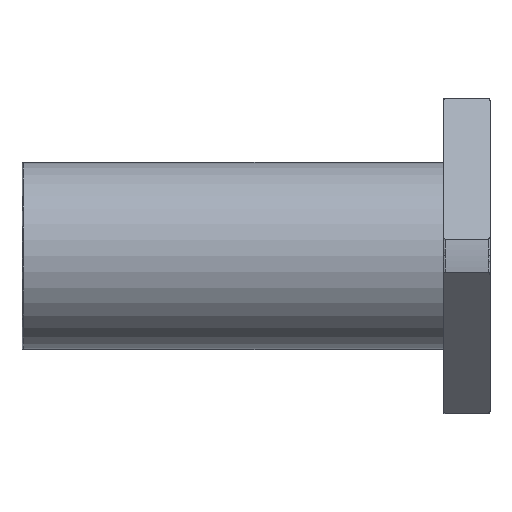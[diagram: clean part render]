
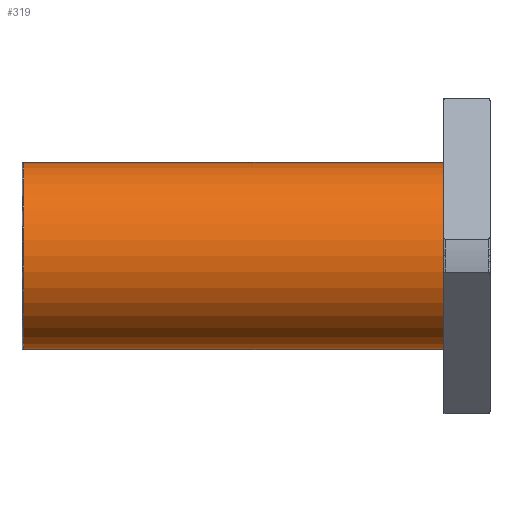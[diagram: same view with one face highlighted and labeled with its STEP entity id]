
A CAD part, top view. The second image highlights one B-rep face of the part: STEP entity #319.
In plain terms, the highlighted cylindrical face has radius 16 mm (diameter 32 mm), a partial arc.
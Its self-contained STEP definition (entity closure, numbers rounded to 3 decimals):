
#319 = ADVANCED_FACE('',(#320),#334,.T.);
#320 = FACE_BOUND('',#321,.T.);
#321 = EDGE_LOOP('',(#322,#357,#386,#415,#438));
#322 = ORIENTED_EDGE('',*,*,#323,.F.);
#323 = EDGE_CURVE('',#324,#326,#328,.T.);
#324 = VERTEX_POINT('',#325);
#325 = CARTESIAN_POINT('',(-79.7,16.,0.));
#326 = VERTEX_POINT('',#327);
#327 = CARTESIAN_POINT('',(-8.,16.,0.));
#328 = SURFACE_CURVE('',#329,(#333,#345),.PCURVE_S1.);
#329 = LINE('',#330,#331);
#330 = CARTESIAN_POINT('',(-43.85,16.,0.));
#331 = VECTOR('',#332,1.);
#332 = DIRECTION('',(1.,0.,0.));
#333 = PCURVE('',#334,#339);
#334 = CYLINDRICAL_SURFACE('',#335,16.);
#335 = AXIS2_PLACEMENT_3D('',#336,#337,#338);
#336 = CARTESIAN_POINT('',(-43.85,0.,0.));
#337 = DIRECTION('',(1.,0.,0.));
#338 = DIRECTION('',(-0.,1.,0.));
#339 = DEFINITIONAL_REPRESENTATION('',(#340),#344);
#340 = LINE('',#341,#342);
#341 = CARTESIAN_POINT('',(0.,0.));
#342 = VECTOR('',#343,1.);
#343 = DIRECTION('',(0.,1.));
#344 = ( GEOMETRIC_REPRESENTATION_CONTEXT(2) 
PARAMETRIC_REPRESENTATION_CONTEXT() REPRESENTATION_CONTEXT('2D SPACE',''
  ) );
#345 = PCURVE('',#346,#351);
#346 = CYLINDRICAL_SURFACE('',#347,16.);
#347 = AXIS2_PLACEMENT_3D('',#348,#349,#350);
#348 = CARTESIAN_POINT('',(-43.85,0.,0.));
#349 = DIRECTION('',(1.,0.,0.));
#350 = DIRECTION('',(-0.,1.,0.));
#351 = DEFINITIONAL_REPRESENTATION('',(#352),#356);
#352 = LINE('',#353,#354);
#353 = CARTESIAN_POINT('',(6.283,0.));
#354 = VECTOR('',#355,1.);
#355 = DIRECTION('',(0.,1.));
#356 = ( GEOMETRIC_REPRESENTATION_CONTEXT(2) 
PARAMETRIC_REPRESENTATION_CONTEXT() REPRESENTATION_CONTEXT('2D SPACE',''
  ) );
#357 = ORIENTED_EDGE('',*,*,#358,.T.);
#358 = EDGE_CURVE('',#324,#359,#361,.T.);
#359 = VERTEX_POINT('',#360);
#360 = CARTESIAN_POINT('',(-79.7,0.,16.));
#361 = SURFACE_CURVE('',#362,(#367,#374),.PCURVE_S1.);
#362 = CIRCLE('',#363,16.);
#363 = AXIS2_PLACEMENT_3D('',#364,#365,#366);
#364 = CARTESIAN_POINT('',(-79.7,0.,0.));
#365 = DIRECTION('',(1.,0.,0.));
#366 = DIRECTION('',(-0.,1.,0.));
#367 = PCURVE('',#334,#368);
#368 = DEFINITIONAL_REPRESENTATION('',(#369),#373);
#369 = LINE('',#370,#371);
#370 = CARTESIAN_POINT('',(0.,-35.85));
#371 = VECTOR('',#372,1.);
#372 = DIRECTION('',(1.,0.));
#373 = ( GEOMETRIC_REPRESENTATION_CONTEXT(2) 
PARAMETRIC_REPRESENTATION_CONTEXT() REPRESENTATION_CONTEXT('2D SPACE',''
  ) );
#374 = PCURVE('',#375,#380);
#375 = TOROIDAL_SURFACE('',#376,15.7,0.3);
#376 = AXIS2_PLACEMENT_3D('',#377,#378,#379);
#377 = CARTESIAN_POINT('',(-79.7,0.,0.));
#378 = DIRECTION('',(1.,0.,0.));
#379 = DIRECTION('',(0.,0.,-1.));
#380 = DEFINITIONAL_REPRESENTATION('',(#381),#385);
#381 = LINE('',#382,#383);
#382 = CARTESIAN_POINT('',(1.571,6.283));
#383 = VECTOR('',#384,1.);
#384 = DIRECTION('',(1.,0.));
#385 = ( GEOMETRIC_REPRESENTATION_CONTEXT(2) 
PARAMETRIC_REPRESENTATION_CONTEXT() REPRESENTATION_CONTEXT('2D SPACE',''
  ) );
#386 = ORIENTED_EDGE('',*,*,#387,.T.);
#387 = EDGE_CURVE('',#359,#388,#390,.T.);
#388 = VERTEX_POINT('',#389);
#389 = CARTESIAN_POINT('',(-79.7,-16.,0.));
#390 = SURFACE_CURVE('',#391,(#396,#403),.PCURVE_S1.);
#391 = CIRCLE('',#392,16.);
#392 = AXIS2_PLACEMENT_3D('',#393,#394,#395);
#393 = CARTESIAN_POINT('',(-79.7,0.,0.));
#394 = DIRECTION('',(1.,0.,0.));
#395 = DIRECTION('',(-0.,1.,0.));
#396 = PCURVE('',#334,#397);
#397 = DEFINITIONAL_REPRESENTATION('',(#398),#402);
#398 = LINE('',#399,#400);
#399 = CARTESIAN_POINT('',(0.,-35.85));
#400 = VECTOR('',#401,1.);
#401 = DIRECTION('',(1.,0.));
#402 = ( GEOMETRIC_REPRESENTATION_CONTEXT(2) 
PARAMETRIC_REPRESENTATION_CONTEXT() REPRESENTATION_CONTEXT('2D SPACE',''
  ) );
#403 = PCURVE('',#404,#409);
#404 = TOROIDAL_SURFACE('',#405,15.7,0.3);
#405 = AXIS2_PLACEMENT_3D('',#406,#407,#408);
#406 = CARTESIAN_POINT('',(-79.7,0.,0.));
#407 = DIRECTION('',(1.,0.,0.));
#408 = DIRECTION('',(0.,0.,-1.));
#409 = DEFINITIONAL_REPRESENTATION('',(#410),#414);
#410 = LINE('',#411,#412);
#411 = CARTESIAN_POINT('',(1.571,6.283));
#412 = VECTOR('',#413,1.);
#413 = DIRECTION('',(1.,0.));
#414 = ( GEOMETRIC_REPRESENTATION_CONTEXT(2) 
PARAMETRIC_REPRESENTATION_CONTEXT() REPRESENTATION_CONTEXT('2D SPACE',''
  ) );
#415 = ORIENTED_EDGE('',*,*,#416,.F.);
#416 = EDGE_CURVE('',#417,#388,#419,.T.);
#417 = VERTEX_POINT('',#418);
#418 = CARTESIAN_POINT('',(-8.,-16.,0.));
#419 = SURFACE_CURVE('',#420,(#424,#431),.PCURVE_S1.);
#420 = LINE('',#421,#422);
#421 = CARTESIAN_POINT('',(-43.85,-16.,0.));
#422 = VECTOR('',#423,1.);
#423 = DIRECTION('',(-1.,-0.,-0.));
#424 = PCURVE('',#334,#425);
#425 = DEFINITIONAL_REPRESENTATION('',(#426),#430);
#426 = LINE('',#427,#428);
#427 = CARTESIAN_POINT('',(3.142,0.));
#428 = VECTOR('',#429,1.);
#429 = DIRECTION('',(0.,-1.));
#430 = ( GEOMETRIC_REPRESENTATION_CONTEXT(2) 
PARAMETRIC_REPRESENTATION_CONTEXT() REPRESENTATION_CONTEXT('2D SPACE',''
  ) );
#431 = PCURVE('',#346,#432);
#432 = DEFINITIONAL_REPRESENTATION('',(#433),#437);
#433 = LINE('',#434,#435);
#434 = CARTESIAN_POINT('',(3.142,0.));
#435 = VECTOR('',#436,1.);
#436 = DIRECTION('',(0.,-1.));
#437 = ( GEOMETRIC_REPRESENTATION_CONTEXT(2) 
PARAMETRIC_REPRESENTATION_CONTEXT() REPRESENTATION_CONTEXT('2D SPACE',''
  ) );
#438 = ORIENTED_EDGE('',*,*,#439,.F.);
#439 = EDGE_CURVE('',#326,#417,#440,.T.);
#440 = SURFACE_CURVE('',#441,(#446,#453),.PCURVE_S1.);
#441 = CIRCLE('',#442,16.);
#442 = AXIS2_PLACEMENT_3D('',#443,#444,#445);
#443 = CARTESIAN_POINT('',(-8.,0.,0.));
#444 = DIRECTION('',(1.,0.,0.));
#445 = DIRECTION('',(-0.,1.,0.));
#446 = PCURVE('',#334,#447);
#447 = DEFINITIONAL_REPRESENTATION('',(#448),#452);
#448 = LINE('',#449,#450);
#449 = CARTESIAN_POINT('',(0.,35.85));
#450 = VECTOR('',#451,1.);
#451 = DIRECTION('',(1.,0.));
#452 = ( GEOMETRIC_REPRESENTATION_CONTEXT(2) 
PARAMETRIC_REPRESENTATION_CONTEXT() REPRESENTATION_CONTEXT('2D SPACE',''
  ) );
#453 = PCURVE('',#454,#459);
#454 = PLANE('',#455);
#455 = AXIS2_PLACEMENT_3D('',#456,#457,#458);
#456 = CARTESIAN_POINT('',(-8.,21.34,0.));
#457 = DIRECTION('',(-1.,0.,0.));
#458 = DIRECTION('',(0.,-1.,0.));
#459 = DEFINITIONAL_REPRESENTATION('',(#460),#468);
#460 = ( BOUNDED_CURVE() B_SPLINE_CURVE(2,(#461,#462,#463,#464,#465,#466
,#467),.UNSPECIFIED.,.T.,.F.) B_SPLINE_CURVE_WITH_KNOTS((1,2,2,2,2,1),(
    -2.094,0.,2.094,4.189,6.283,
8.378),.UNSPECIFIED.) CURVE() GEOMETRIC_REPRESENTATION_ITEM() 
RATIONAL_B_SPLINE_CURVE((1.,0.5,1.,0.5,1.,0.5,1.)) REPRESENTATION_ITEM(
  '') );
#461 = CARTESIAN_POINT('',(5.34,0.));
#462 = CARTESIAN_POINT('',(5.34,27.713));
#463 = CARTESIAN_POINT('',(29.34,13.856));
#464 = CARTESIAN_POINT('',(53.34,0.));
#465 = CARTESIAN_POINT('',(29.34,-13.856));
#466 = CARTESIAN_POINT('',(5.34,-27.713));
#467 = CARTESIAN_POINT('',(5.34,0.));
#468 = ( GEOMETRIC_REPRESENTATION_CONTEXT(2) 
PARAMETRIC_REPRESENTATION_CONTEXT() REPRESENTATION_CONTEXT('2D SPACE',''
  ) );
